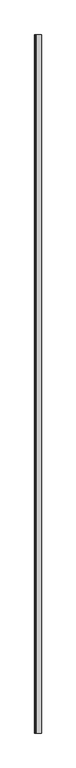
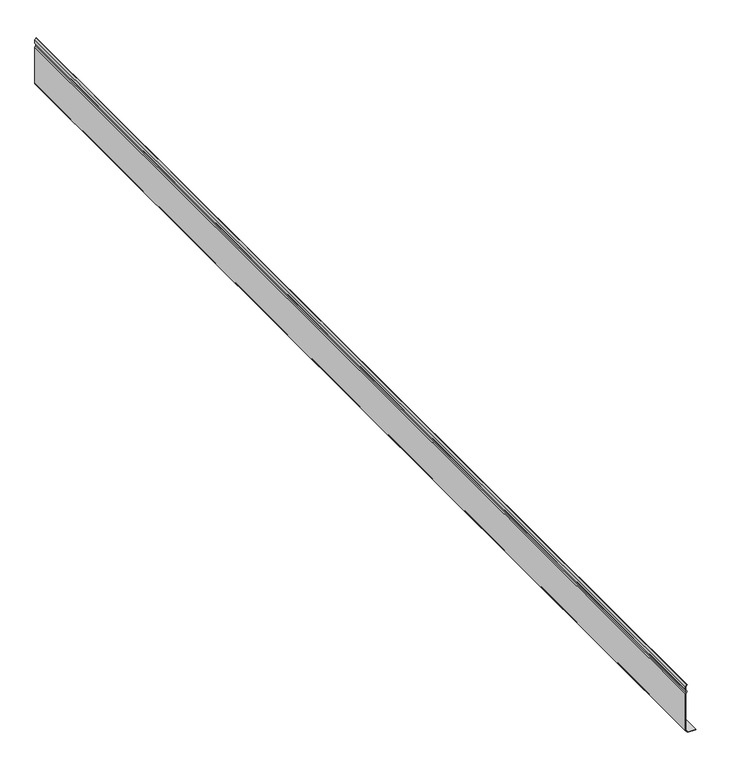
"""IFC4 building model written with IfcOpenShell, lengths in millimetres: proxy geometry, Cable_Tray_Divider_Profile_PS_Basortray : Basortray PS-GS-100."""

from ifc_helpers import new_model, si_unit, frame, origin, place, context, project, spatial, polyline, outline, extrude, source, transform, mapped, element, save


def generic_models_8213715d(model_context):
    return source(origin(), model_context, "Body", "SweptSolid", [
        extrude(outline(polyline([(0.0, -5.0), (0.0, 10.0), (1.0, 10.0), (1.0, -4.5857864), (5.4142136, -9.0), (77.1619228, -9.0), (79.59349, -7.596134), (83.1317435, -7.596134), (85.5633108, -9.0), (91.6158943, -9.0), (94.2928932, -6.3230011), (95.0, -7.0301078), (92.0301078, -10.0), (85.2953616, -10.0), (82.8637943, -8.596134), (79.8614392, -8.596134), (77.429872, -10.0), (5.0, -10.0), (0.0, -5.0)])), frame((0.0, 0.0, 0.0), z_axis=(0.0, 1.0, 0.0), x_axis=(0.0, 0.0, 1.0)), (0.0, 0.0, 1.0), 2107.8637117),
    ])


if __name__ == "__main__":
    model = new_model("IFC4")
    model_context = context("Model", 3, world=origin())
    ifc_project = project(units=[si_unit("LENGTHUNIT", "METRE", prefix="MILLI")], contexts=[model_context])
    site = spatial("IfcSite", under=ifc_project)
    building = spatial("IfcBuilding", under=site)
    placement = place(None, origin())
    generic_models_shape = generic_models_8213715d(model_context)
    element("IfcBuildingElementProxy", 1, Name="Cable_Tray_Divider_Profile_PS_Basortray : Basortray PS-GS-100", ObjectType="Cable_Tray_Divider_Profile_PS_Basortray : Basortray PS-GS-100", at=placement, inside=building, context=model_context, shape_type="MappedRepresentation", body=[
        mapped(generic_models_shape, transform((0.0, 0.0, 0.0), x_axis=(1.0, 0.0, 0.0), y_axis=(0.0, 1.0, 0.0), z_axis=(0.0, 0.0, 1.0))),
    ])
    save(model, "model.ifc")
